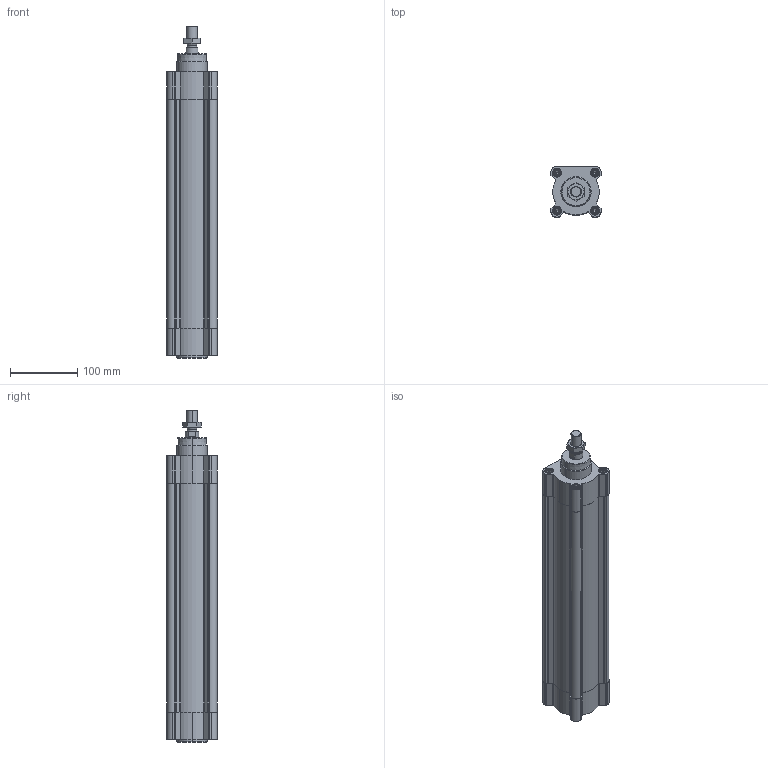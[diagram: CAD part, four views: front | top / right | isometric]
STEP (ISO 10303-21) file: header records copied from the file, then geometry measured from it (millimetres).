
FILE_DESCRIPTION (( 'STEP AP203' ), '1' );
FILE_NAME ('CPME63-300.STEP', '2025-01-27T11:43:48', ( '' ), ( '' ), 'SwSTEP 2.0', 'SolidWorks 2019', '' );
FILE_SCHEMA (( 'CONFIG_CONTROL_DESIGN' ));
Length unit declared in the file: millimetre
Products named in the file (1): CPME63-300
Bounding box: 75 x 75 x 493.1 mm (x, y, z)
Volume: 1182361.5 mm3; surface area: 288046.1 mm2
Topology: 3 solids, 3 shells, 639 faces, 1655 edges, 1050 vertices
Faces by surface type: plane 325, cylinder 200, cone 106, torus 8
Entity records: 19989 total; most frequent: CARTESIAN_POINT 4403, ORIENTED_EDGE 3278, DIRECTION 3187, EDGE_CURVE 1639, AXIS2_PLACEMENT_3D 1131, VERTEX_POINT 1050, LINE 925, VECTOR 925
